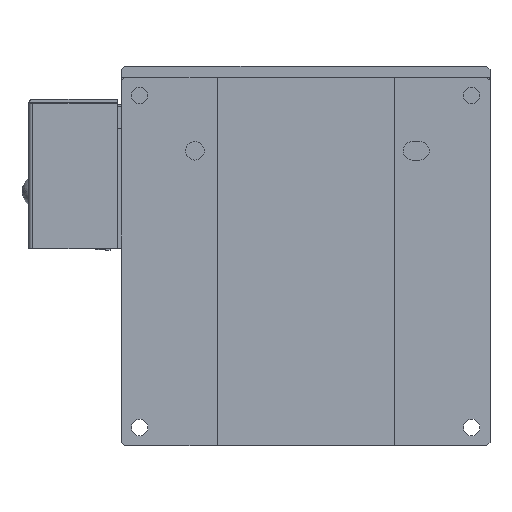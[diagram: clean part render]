
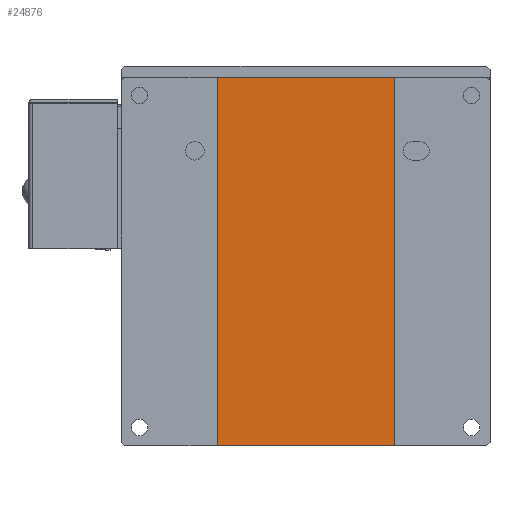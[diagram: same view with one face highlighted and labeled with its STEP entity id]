
A CAD part, front view. The second image highlights one B-rep face of the part: STEP entity #24876.
In plain terms, the highlighted planar face has unit normal (0, -1, 0) as drawn and (1, 0, 0) by its records, which use the part's own axes.
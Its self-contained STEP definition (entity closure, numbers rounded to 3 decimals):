
#2751 = PLANE ( 'NONE',  #36471 ) ;
#8503 = VECTOR ( 'NONE', #36225, 1000. ) ;
#13209 = CARTESIAN_POINT ( 'NONE',  ( 444.23, -184.111, 15. ) ) ;
#14688 = ORIENTED_EDGE ( 'NONE', *, *, #41289, .T. ) ;
#15048 = VERTEX_POINT ( 'NONE', #67459 ) ;
#16010 = DIRECTION ( 'NONE',  ( 0., 1., 0. ) ) ;
#19071 = VERTEX_POINT ( 'NONE', #13209 ) ;
#21993 = DIRECTION ( 'NONE',  ( -1., 0., 0. ) ) ;
#22114 = CARTESIAN_POINT ( 'NONE',  ( 444.23, -160.111, 15. ) ) ;
#22188 = DIRECTION ( 'NONE',  ( 0., 0., 1. ) ) ;
#23990 = VECTOR ( 'NONE', #16010, 1000. ) ;
#24876 = ADVANCED_FACE ( 'NONE', ( #74020 ), #2751, .F. ) ;
#25544 = CARTESIAN_POINT ( 'NONE',  ( 444.23, -184.111, 115. ) ) ;
#26016 = CARTESIAN_POINT ( 'NONE',  ( 444.23, -136.111, 15. ) ) ;
#27044 = ORIENTED_EDGE ( 'NONE', *, *, #81404, .T. ) ;
#27949 = VERTEX_POINT ( 'NONE', #26016 ) ;
#31834 = LINE ( 'NONE', #41027, #57303 ) ;
#36225 = DIRECTION ( 'NONE',  ( 0., -1., 0. ) ) ;
#36471 = AXIS2_PLACEMENT_3D ( 'NONE', #53713, #21993, #72667 ) ;
#39558 = LINE ( 'NONE', #22114, #23990 ) ;
#41027 = CARTESIAN_POINT ( 'NONE',  ( 444.23, -136.111, 65. ) ) ;
#41289 = EDGE_CURVE ( 'NONE', #15048, #43126, #41872, .T. ) ;
#41872 = LINE ( 'NONE', #73513, #8503 ) ;
#43126 = VERTEX_POINT ( 'NONE', #25544 ) ;
#44097 = CARTESIAN_POINT ( 'NONE',  ( 444.23, -184.111, 65. ) ) ;
#44672 = EDGE_LOOP ( 'NONE', ( #14688, #64324, #27044, #61275 ) ) ;
#50418 = DIRECTION ( 'NONE',  ( 0., 0., -1. ) ) ;
#53713 = CARTESIAN_POINT ( 'NONE',  ( 444.23, -160.111, 65. ) ) ;
#54527 = EDGE_CURVE ( 'NONE', #27949, #15048, #31834, .T. ) ;
#57303 = VECTOR ( 'NONE', #22188, 1000. ) ;
#61275 = ORIENTED_EDGE ( 'NONE', *, *, #54527, .T. ) ;
#64324 = ORIENTED_EDGE ( 'NONE', *, *, #78211, .T. ) ;
#64632 = VECTOR ( 'NONE', #50418, 1000. ) ;
#67459 = CARTESIAN_POINT ( 'NONE',  ( 444.23, -136.111, 115. ) ) ;
#72667 = DIRECTION ( 'NONE',  ( 0., 0., -1. ) ) ;
#73513 = CARTESIAN_POINT ( 'NONE',  ( 444.23, -160.111, 115. ) ) ;
#74020 = FACE_OUTER_BOUND ( 'NONE', #44672, .T. ) ;
#78211 = EDGE_CURVE ( 'NONE', #43126, #19071, #81335, .T. ) ;
#81335 = LINE ( 'NONE', #44097, #64632 ) ;
#81404 = EDGE_CURVE ( 'NONE', #19071, #27949, #39558, .T. ) ;
